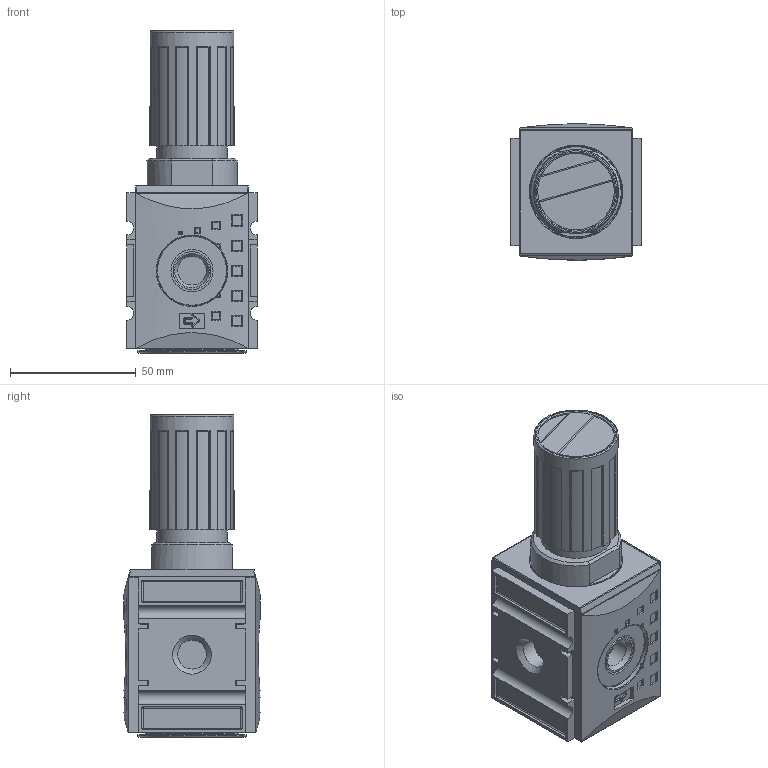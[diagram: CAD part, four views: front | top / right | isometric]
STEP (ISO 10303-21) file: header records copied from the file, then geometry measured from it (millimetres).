
FILE_DESCRIPTION((''),'2;1');
FILE_NAME('K:\ZEICHNG\Kunden Modelle\Step Modelle\AS2 BG1\Airtec Schweden\KREG-114.stp','2010-01-29T13:21:55',('DDruske'),(''),'Autodesk Inventor 2009','Autodesk Inventor 2009','');
FILE_SCHEMA(('AUTOMOTIVE_DESIGN { 1 0 10303 214 1 1 1 1 }'));
Length unit declared in the file: millimetre
Products named in the file (1): Bauteil7
Bounding box: 52 x 54.19 x 128.3 mm (x, y, z)
Volume: 202846.2 mm3; surface area: 40826.3 mm2
Topology: 2 solids, 4 shells, 818 faces, 2173 edges, 1358 vertices
Faces by surface type: cylinder 308, plane 251, bspline 168, torus 75, cone 8, sphere 8
Full cylindrical faces by diameter (mm): 11.445 x3, 15.1 x1, 16.8 x3, 28 x4, 33.5 x1, 35 x1, 36 x1, 37.323 x1, 43.5 x1
Entity records: 32688 total; most frequent: CARTESIAN_POINT 12531, ORIENTED_EDGE 4166, DIRECTION 3806, EDGE_CURVE 2083, AXIS2_PLACEMENT_3D 1370, VERTEX_POINT 1343, VECTOR 1066, LINE 1066
